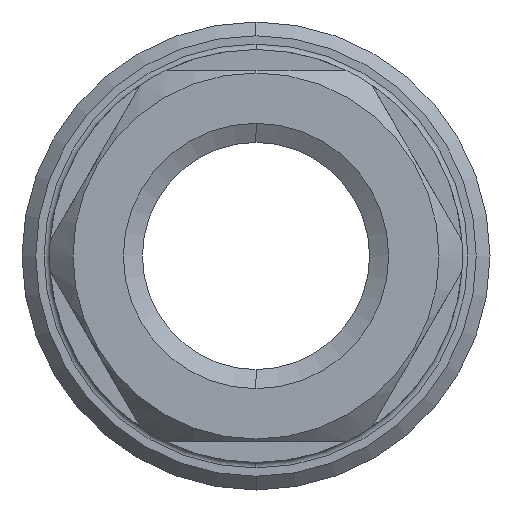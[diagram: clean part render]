
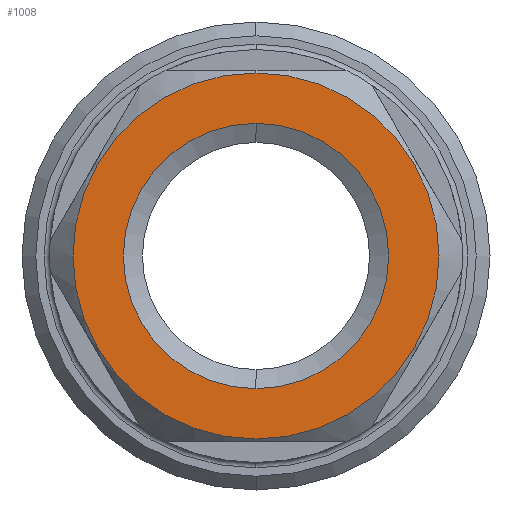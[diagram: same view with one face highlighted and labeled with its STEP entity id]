
A CAD part, left-side view. The second image highlights one B-rep face of the part: STEP entity #1008.
In plain terms, the highlighted planar face has unit normal (-1, 0, 0).
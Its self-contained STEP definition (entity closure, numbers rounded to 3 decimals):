
#5 = CARTESIAN_POINT ( 'NONE',  ( -18., 0., 0. ) ) ;
#19 = AXIS2_PLACEMENT_3D ( 'NONE', #120, #784, #228 ) ;
#80 = CARTESIAN_POINT ( 'NONE',  ( -18., 0., 0. ) ) ;
#120 = CARTESIAN_POINT ( 'NONE',  ( -18., 0., 0. ) ) ;
#189 = DIRECTION ( 'NONE',  ( 0., 0., 1. ) ) ;
#228 = DIRECTION ( 'NONE',  ( 0., 0., -1. ) ) ;
#259 = VERTEX_POINT ( 'NONE', #620 ) ;
#297 = VERTEX_POINT ( 'NONE', #948 ) ;
#329 = EDGE_LOOP ( 'NONE', ( #1254, #1051 ) ) ;
#332 = AXIS2_PLACEMENT_3D ( 'NONE', #534, #1308, #656 ) ;
#443 = ORIENTED_EDGE ( 'NONE', *, *, #550, .T. ) ;
#477 = EDGE_CURVE ( 'NONE', #259, #1034, #1169, .T. ) ;
#498 = EDGE_CURVE ( 'NONE', #297, #933, #1387, .T. ) ;
#534 = CARTESIAN_POINT ( 'NONE',  ( -18., 0., 0. ) ) ;
#550 = EDGE_CURVE ( 'NONE', #933, #297, #1065, .T. ) ;
#614 = DIRECTION ( 'NONE',  ( 0., 0., 1. ) ) ;
#620 = CARTESIAN_POINT ( 'NONE',  ( -18., 0., 13.3 ) ) ;
#656 = DIRECTION ( 'NONE',  ( 0., 0., -1. ) ) ;
#692 = DIRECTION ( 'NONE',  ( 1., 0., 0. ) ) ;
#715 = EDGE_CURVE ( 'NONE', #1034, #259, #1408, .T. ) ;
#732 = DIRECTION ( 'NONE',  ( -1., 0., 0. ) ) ;
#737 = AXIS2_PLACEMENT_3D ( 'NONE', #5, #692, #1342 ) ;
#784 = DIRECTION ( 'NONE',  ( 1., 0., 0. ) ) ;
#810 = FACE_OUTER_BOUND ( 'NONE', #329, .T. ) ;
#879 = DIRECTION ( 'NONE',  ( 1., 0., 0. ) ) ;
#899 = CARTESIAN_POINT ( 'NONE',  ( -18., 0., 9.636 ) ) ;
#933 = VERTEX_POINT ( 'NONE', #899 ) ;
#948 = CARTESIAN_POINT ( 'NONE',  ( -18., 0., -9.636 ) ) ;
#1008 = ADVANCED_FACE ( 'NONE', ( #1385, #810 ), #1395, .T. ) ;
#1034 = VERTEX_POINT ( 'NONE', #1163 ) ;
#1051 = ORIENTED_EDGE ( 'NONE', *, *, #477, .F. ) ;
#1065 = CIRCLE ( 'NONE', #1425, 9.636 ) ;
#1163 = CARTESIAN_POINT ( 'NONE',  ( -18., 0., -13.3 ) ) ;
#1168 = CARTESIAN_POINT ( 'NONE',  ( -18., 13.3, 0. ) ) ;
#1169 = CIRCLE ( 'NONE', #19, 13.3 ) ;
#1236 = AXIS2_PLACEMENT_3D ( 'NONE', #1168, #732, #614 ) ;
#1254 = ORIENTED_EDGE ( 'NONE', *, *, #715, .F. ) ;
#1273 = ORIENTED_EDGE ( 'NONE', *, *, #498, .T. ) ;
#1308 = DIRECTION ( 'NONE',  ( 1., 0., 0. ) ) ;
#1342 = DIRECTION ( 'NONE',  ( 0., 0., 1. ) ) ;
#1374 = EDGE_LOOP ( 'NONE', ( #443, #1273 ) ) ;
#1385 = FACE_BOUND ( 'NONE', #1374, .T. ) ;
#1387 = CIRCLE ( 'NONE', #737, 9.636 ) ;
#1395 = PLANE ( 'NONE',  #1236 ) ;
#1408 = CIRCLE ( 'NONE', #332, 13.3 ) ;
#1425 = AXIS2_PLACEMENT_3D ( 'NONE', #80, #879, #189 ) ;
